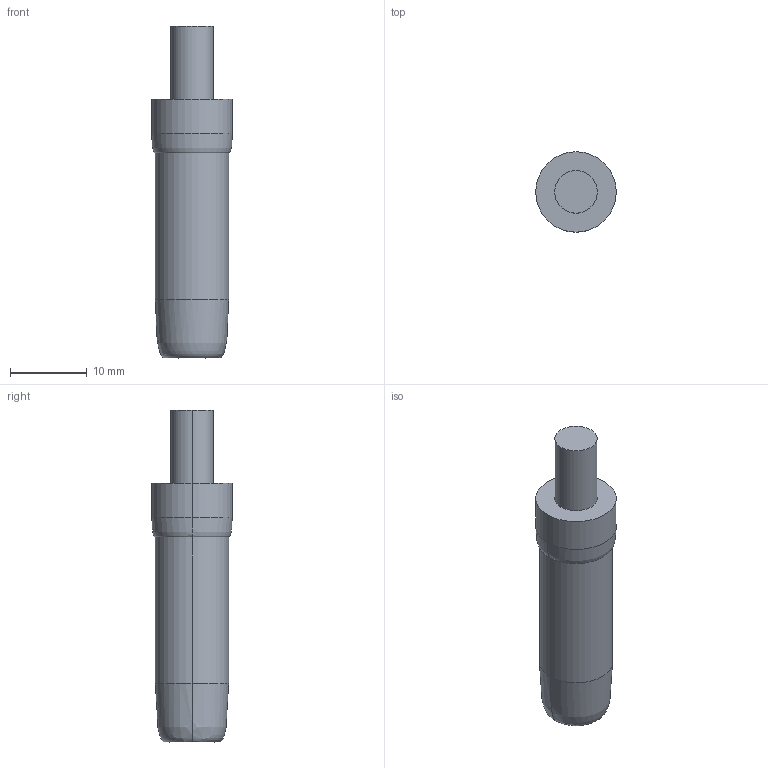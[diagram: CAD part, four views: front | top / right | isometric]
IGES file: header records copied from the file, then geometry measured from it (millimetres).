
Start section:  PTC IGES file: cu_cdaq_powerplug.igs
Global section: file name: cu_cdaq_powerplug.igs; native system: Pro/ENGINEER by Parametric Technology Corporation; preprocessor: 2006080; author: jpearson; organization: Unknown; date: 070829.171901; units: inch
Bounding box: 10.46 x 10.46 x 43.18 mm (x, y, z)
Surface area: 1844.8 mm2 (no closed solid volume)
Topology: 0 solids, 0 shells, 20 faces, 76 edges, 76 vertices
Faces by surface type: bspline 10, revolution 10
